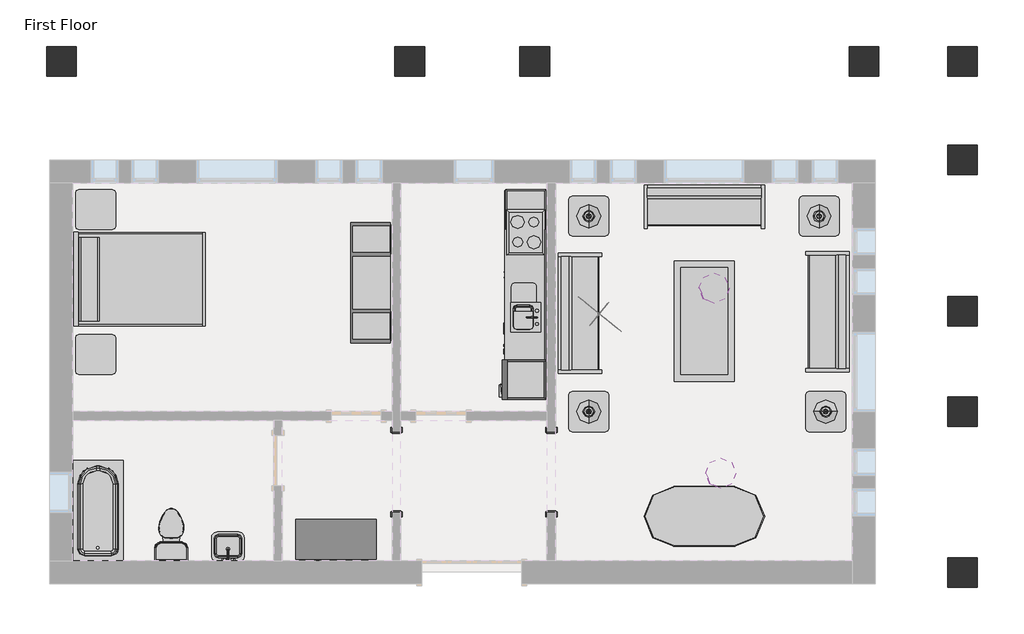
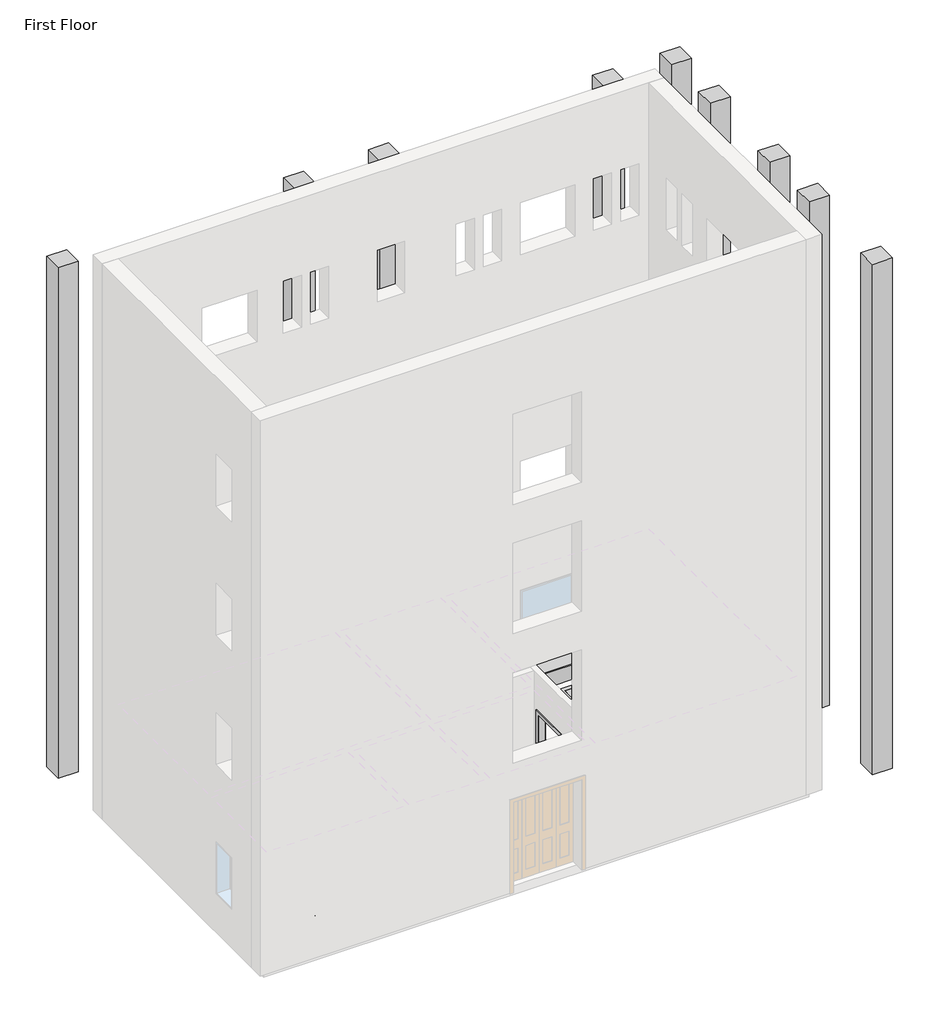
# One storey, part 3 of 3: 15 furniture elements, 9 columns, 7 proxies, 6 light fixtures, 4 flow terminals.
"""IFC4 building model written with IfcOpenShell, lengths in millimetres."""

from ifc_helpers import new_model, si_unit, origin, place, context, project, spatial, faceted_brep, transform, mapped, element, save
from components import m_cook_top_4_unit2_0615_x_500mm_249f3515, m_dishwasher_610_x_610_x_875mm_54ecfc4c, m_kitchenette_medium_2591_ce898a11, m_passage_opening_cased_1220_x_2134mm_87a8d9c2, m_rpc_female_c3b5a3e1, m_refrigerator_600_x_660mm_a466bf94, m_sink_kitchen_island_450_x_450mm_f969cf2d, m_sink_vanity_square_500_x_440mm_1e229b74, m_toilet_domestic_3d_m_toilet_domestic_3d_5cb52bd4, m_toilet_domestic_3d_m_toilet_domestic_3d_183bbd19, m_tub_rectangular_3d_m_tub_rectangular_3d_3a981ad5, m_bed_shaker_1422_x_1981mm_double_096e7f55, m_counter_top_w_sink_hole_600mm_depth_5db41418, m_dresser_1220_x_1525_x_0610mm_18e1f140, m_entertainment_center_1830_x_1830_x_0610mm_f77a9b93, m_sofa_1830mm_58d08fc1, m_table_coffee_0915_x_1830_x_0457mm_134cd960, m_table_dining_oval_0915_x_1830mm_a7cfbe21, m_table_end_cb6ea12e, m_pendant_light_disk_100w_120v_a7a090af, m_table_lamp_standard_60w_120v_6e8cd8b1

model = new_model("IFC4")

# Units and contexts
model_context = context("Model", 3, world=origin())
ifc_project = project(units=[si_unit("LENGTHUNIT", "METRE", prefix="MILLI")], contexts=[model_context])

# Site, building, storey
site = spatial("IfcSite", under=ifc_project)
building = spatial("IfcBuilding", under=site)
storey = spatial("IfcBuildingStorey", under=building, Name="First Floor", Elevation=0.0)

# Proxies
placement = place(None, origin())
m_cook_top_4_unit2_0615_x_500mm_shape = m_cook_top_4_unit2_0615_x_500mm_249f3515(model_context)
element("IfcBuildingElementProxy", 1, Name="M_Cook Top-4 Unit2 : 0615 x 500mm", ObjectType="M_Cook Top-4 Unit2 : 0615 x 500mm", at=placement, inside=storey, context=model_context, shape_type="MappedRepresentation", body=[
    mapped(m_cook_top_4_unit2_0615_x_500mm_shape, transform((-8054.9916203, 1658.804661, 0.0), x_axis=(0.0, -1.0, 0.0), y_axis=(1.0, 0.0, 0.0), z_axis=(0.0, 0.0, 1.0))),
])
m_dishwasher_610_x_610_x_875mm_shape = m_dishwasher_610_x_610_x_875mm_54ecfc4c(model_context)
element("IfcBuildingElementProxy", 2, Name="M_Dishwasher : 610 x 610 x 875mm", ObjectType="M_Dishwasher : 610 x 610 x 875mm", at=placement, inside=storey, context=model_context, shape_type="MappedRepresentation", body=[
    mapped(m_dishwasher_610_x_610_x_875mm_shape, transform((-8321.6411851, 403.0721295, 0.0), x_axis=(0.0, -1.0, 0.0), y_axis=(1.0, 0.0, 0.0), z_axis=(0.0, 0.0, 1.0))),
])
m_kitchenette_medium_2591_shape = m_kitchenette_medium_2591_ce898a11(model_context)
element("IfcBuildingElementProxy", 3, Name="M_Kitchenette - Medium : 2591", ObjectType="M_Kitchenette - Medium : 2591", at=placement, inside=storey, context=model_context, shape_type="MappedRepresentation", body=[
    mapped(m_kitchenette_medium_2591_shape, transform((-7749.9916203, 1029.7923659, 0.0), x_axis=(0.0, -1.0, 0.0), y_axis=(1.0, 0.0, 0.0), z_axis=(0.0, 0.0, 1.0))),
])
m_passage_opening_cased_1220_x_2134mm_shape = m_passage_opening_cased_1220_x_2134mm_87a8d9c2(model_context)
element("IfcBuildingElementProxy", 4, Name="M_Passage Opening-Cased : 1220 x 2134mm", ObjectType="M_Passage Opening-Cased : 1220 x 2134mm", at=placement, inside=storey, context=model_context, shape_type="MappedRepresentation", body=[
    mapped(m_passage_opening_cased_1220_x_2134mm_shape, transform((-7665.3416203, -1982.6925047, 0.0), x_axis=(0.0, 1.0, 0.0), y_axis=(-1.0, 0.0, 0.0), z_axis=(0.0, 0.0, 1.0))),
])
element("IfcBuildingElementProxy", 5, Name="M_Passage Opening-Cased : 1220 x 2134mm", ObjectType="M_Passage Opening-Cased : 1220 x 2134mm", at=placement, inside=storey, context=model_context, shape_type="MappedRepresentation", body=[
    mapped(m_passage_opening_cased_1220_x_2134mm_shape, transform((-10019.0916203, -1999.0698181, 0.0), x_axis=(0.0, -1.0, 0.0), y_axis=(1.0, 0.0, 0.0), z_axis=(0.0, 0.0, 1.0))),
])
m_rpc_female_shape = m_rpc_female_c3b5a3e1(model_context)
element("IfcBuildingElementProxy", 6, Name="M_RPC Female : Cynthia", ObjectType="M_RPC Female : Cynthia", at=placement, inside=storey, context=model_context, shape_type="MappedRepresentation", body=[
    mapped(m_rpc_female_shape, transform((-6817.8815242, 314.0517006, 0.0), x_axis=(-0.6293203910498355, -0.7771459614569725, 0.0), y_axis=(0.7771459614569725, -0.6293203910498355, 0.0), z_axis=(0.0, 0.0, 1.0))),
])
m_refrigerator_600_x_660mm_shape = m_refrigerator_600_x_660mm_a466bf94(model_context)
element("IfcBuildingElementProxy", 7, Name="M_Refrigerator : 600 x 660mm", ObjectType="M_Refrigerator : 600 x 660mm", at=placement, inside=storey, context=model_context, shape_type="MappedRepresentation", body=[
    mapped(m_refrigerator_600_x_660mm_shape, transform((-8046.2067105, -638.2464817, 0.0), x_axis=(0.0, -1.0, 0.0), y_axis=(1.0, 0.0, 0.0), z_axis=(0.0, 0.0, 1.0))),
])

# Columns
element("IfcColumn", 8, ObjectType="M_Concrete-Square-Column : 450 x 450mm", at=placement, inside=storey, context=model_context, shape_type="Brep", body=[
    faceted_brep([(-2693.3416203, 4481.1188386, 0.0), (-2693.3416203, 4031.1188386, 0.0), (-3143.3416203, 4031.1188386, 0.0), (-3143.3416203, 4481.1188386, 0.0), (-2693.3416203, 4481.1188386, 12042.0), (-2693.3416203, 4031.1188386, 12042.0), (-2693.3416203, 4031.1188386, 11742.0), (-2693.3416203, 4031.1188386, 9144.0), (-2693.3416203, 4031.1188386, 8694.0), (-2693.3416203, 4031.1188386, 6096.0), (-2693.3416203, 4031.1188386, 5646.0), (-2693.3416203, 4031.1188386, 3048.0), (-2693.3416203, 4031.1188386, 2598.0), (-2693.3416203, 4481.1188386, 2598.0), (-2693.3416203, 4481.1188386, 3048.0), (-2693.3416203, 4481.1188386, 5646.0), (-2693.3416203, 4481.1188386, 6096.0), (-2693.3416203, 4481.1188386, 8694.0), (-2693.3416203, 4481.1188386, 9144.0), (-2693.3416203, 4481.1188386, 11742.0), (-3143.3416203, 4031.1188386, 12042.0), (-3143.3416203, 4031.1188386, 11742.0), (-3143.3416203, 4031.1188386, 9144.0), (-3143.3416203, 4031.1188386, 8694.0), (-3143.3416203, 4031.1188386, 6096.0), (-3143.3416203, 4031.1188386, 5646.0), (-3143.3416203, 4031.1188386, 3048.0), (-3143.3416203, 4031.1188386, 2598.0), (-3143.3416203, 4481.1188386, 12042.0), (-3143.3416203, 4481.1188386, 11742.0), (-3143.3416203, 4481.1188386, 9144.0), (-3143.3416203, 4481.1188386, 8694.0), (-3143.3416203, 4481.1188386, 6096.0), (-3143.3416203, 4481.1188386, 5646.0), (-3143.3416203, 4481.1188386, 3048.0), (-3143.3416203, 4481.1188386, 2598.0)], [[[0, 1, 2, 3]], [[4, 5, 6, 7, 8, 9, 10, 11, 12, 1, 0, 13, 14, 15, 16, 17, 18, 19]], [[5, 20, 21, 22, 23, 24, 25, 26, 27, 2, 1, 12, 11, 10, 9, 8, 7, 6]], [[20, 28, 29, 30, 31, 32, 33, 34, 35, 3, 2, 27, 26, 25, 24, 23, 22, 21]], [[28, 4, 19, 18, 17, 16, 15, 14, 13, 0, 3, 35, 34, 33, 32, 31, 30, 29]], [[4, 28, 20, 5]]]),
])
element("IfcColumn", 9, ObjectType="M_Concrete-Square-Column : 450 x 450mm", at=placement, inside=storey, context=model_context, shape_type="Brep", body=[
    faceted_brep([(-7693.3416203, 4481.1188386, 0.0), (-7693.3416203, 4031.1188386, 0.0), (-8143.3416203, 4031.1188386, 0.0), (-8143.3416203, 4481.1188386, 0.0), (-7693.3416203, 4481.1188386, 12042.0), (-7693.3416203, 4031.1188386, 12042.0), (-7693.3416203, 4031.1188386, 11742.0), (-7693.3416203, 4031.1188386, 9144.0), (-7693.3416203, 4031.1188386, 8694.0), (-7693.3416203, 4031.1188386, 6096.0), (-7693.3416203, 4031.1188386, 5646.0), (-7693.3416203, 4031.1188386, 3048.0), (-7693.3416203, 4031.1188386, 2598.0), (-7693.3416203, 4481.1188386, 2598.0), (-7693.3416203, 4481.1188386, 3048.0), (-7693.3416203, 4481.1188386, 5646.0), (-7693.3416203, 4481.1188386, 6096.0), (-7693.3416203, 4481.1188386, 8694.0), (-7693.3416203, 4481.1188386, 9144.0), (-7693.3416203, 4481.1188386, 11742.0), (-8143.3416203, 4031.1188386, 12042.0), (-8143.3416203, 4031.1188386, 11742.0), (-8143.3416203, 4031.1188386, 9144.0), (-8143.3416203, 4031.1188386, 8694.0), (-8143.3416203, 4031.1188386, 6096.0), (-8143.3416203, 4031.1188386, 5646.0), (-8143.3416203, 4031.1188386, 3048.0), (-8143.3416203, 4031.1188386, 2598.0), (-8143.3416203, 4481.1188386, 12042.0), (-8143.3416203, 4481.1188386, 11742.0), (-8143.3416203, 4481.1188386, 9144.0), (-8143.3416203, 4481.1188386, 8694.0), (-8143.3416203, 4481.1188386, 6096.0), (-8143.3416203, 4481.1188386, 5646.0), (-8143.3416203, 4481.1188386, 3048.0), (-8143.3416203, 4481.1188386, 2598.0)], [[[0, 1, 2, 3]], [[4, 5, 6, 7, 8, 9, 10, 11, 12, 1, 0, 13, 14, 15, 16, 17, 18, 19]], [[5, 20, 21, 22, 23, 24, 25, 26, 27, 2, 1, 12, 11, 10, 9, 8, 7, 6]], [[20, 28, 29, 30, 31, 32, 33, 34, 35, 3, 2, 27, 26, 25, 24, 23, 22, 21]], [[28, 4, 19, 18, 17, 16, 15, 14, 13, 0, 3, 35, 34, 33, 32, 31, 30, 29]], [[4, 28, 20, 5]]]),
])
element("IfcColumn", 10, ObjectType="M_Concrete-Square-Column : 450 x 450mm", at=placement, inside=storey, context=model_context, shape_type="Brep", body=[
    faceted_brep([(-9593.3416203, 4481.1188386, 0.0), (-9593.3416203, 4031.1188386, 0.0), (-10043.3416203, 4031.1188386, 0.0), (-10043.3416203, 4481.1188386, 0.0), (-9593.3416203, 4481.1188386, 12042.0), (-9593.3416203, 4031.1188386, 12042.0), (-9593.3416203, 4031.1188386, 11742.0), (-9593.3416203, 4031.1188386, 9144.0), (-9593.3416203, 4031.1188386, 8694.0), (-9593.3416203, 4031.1188386, 6096.0), (-9593.3416203, 4031.1188386, 5646.0), (-9593.3416203, 4031.1188386, 3048.0), (-9593.3416203, 4031.1188386, 2598.0), (-9593.3416203, 4481.1188386, 2598.0), (-9593.3416203, 4481.1188386, 3048.0), (-9593.3416203, 4481.1188386, 5646.0), (-9593.3416203, 4481.1188386, 6096.0), (-9593.3416203, 4481.1188386, 8694.0), (-9593.3416203, 4481.1188386, 9144.0), (-9593.3416203, 4481.1188386, 11742.0), (-10043.3416203, 4031.1188386, 12042.0), (-10043.3416203, 4031.1188386, 11742.0), (-10043.3416203, 4031.1188386, 9144.0), (-10043.3416203, 4031.1188386, 8694.0), (-10043.3416203, 4031.1188386, 6096.0), (-10043.3416203, 4031.1188386, 5646.0), (-10043.3416203, 4031.1188386, 3048.0), (-10043.3416203, 4031.1188386, 2598.0), (-10043.3416203, 4481.1188386, 12042.0), (-10043.3416203, 4481.1188386, 11742.0), (-10043.3416203, 4481.1188386, 9144.0), (-10043.3416203, 4481.1188386, 8694.0), (-10043.3416203, 4481.1188386, 6096.0), (-10043.3416203, 4481.1188386, 5646.0), (-10043.3416203, 4481.1188386, 3048.0), (-10043.3416203, 4481.1188386, 2598.0)], [[[0, 1, 2, 3]], [[4, 5, 6, 7, 8, 9, 10, 11, 12, 1, 0, 13, 14, 15, 16, 17, 18, 19]], [[5, 20, 21, 22, 23, 24, 25, 26, 27, 2, 1, 12, 11, 10, 9, 8, 7, 6]], [[20, 28, 29, 30, 31, 32, 33, 34, 35, 3, 2, 27, 26, 25, 24, 23, 22, 21]], [[28, 4, 19, 18, 17, 16, 15, 14, 13, 0, 3, 35, 34, 33, 32, 31, 30, 29]], [[4, 28, 20, 5]]]),
])
element("IfcColumn", 11, ObjectType="M_Concrete-Square-Column : 450 x 450mm", at=placement, inside=storey, context=model_context, shape_type="Brep", body=[
    faceted_brep([(-14885.3416203, 4481.1188386, 0.0), (-14885.3416203, 4031.1188386, 0.0), (-15335.3416203, 4031.1188386, 0.0), (-15335.3416203, 4481.1188386, 0.0), (-14885.3416203, 4481.1188386, 12042.0), (-14885.3416203, 4031.1188386, 12042.0), (-14885.3416203, 4031.1188386, 11742.0), (-14885.3416203, 4481.1188386, 11742.0), (-15335.3416203, 4031.1188386, 12042.0), (-15335.3416203, 4031.1188386, 11742.0), (-15335.3416203, 4481.1188386, 12042.0), (-15335.3416203, 4481.1188386, 11742.0)], [[[0, 1, 2, 3]], [[4, 5, 6, 1, 0, 7]], [[5, 8, 9, 2, 1, 6]], [[8, 10, 11, 3, 2, 9]], [[10, 4, 7, 0, 3, 11]], [[4, 10, 8, 5]]]),
])
element("IfcColumn", 12, ObjectType="M_Concrete-Square-Column : 450 x 450mm", at=placement, inside=storey, context=model_context, shape_type="Brep", body=[
    faceted_brep([(-1193.3416203, 4481.1188386, 0.0), (-1193.3416203, 4031.1188386, 0.0), (-1643.3416203, 4031.1188386, 0.0), (-1643.3416203, 4481.1188386, 0.0), (-1193.3416203, 4481.1188386, 12042.0), (-1193.3416203, 4031.1188386, 12042.0), (-1193.3416203, 4031.1188386, 11742.0), (-1643.3416203, 4031.1188386, 12042.0), (-1643.3416203, 4031.1188386, 11742.0), (-1643.3416203, 4481.1188386, 12042.0), (-1643.3416203, 4481.1188386, 11742.0)], [[[0, 1, 2, 3]], [[4, 5, 6, 1, 0]], [[5, 7, 8, 2, 1, 6]], [[7, 9, 10, 3, 2, 8]], [[9, 4, 0, 3, 10]], [[4, 9, 7, 5]]]),
])
element("IfcColumn", 13, ObjectType="M_Concrete-Square-Column : 450 x 450mm", at=placement, inside=storey, context=model_context, shape_type="Brep", body=[
    faceted_brep([(-1193.3416203, 2981.1188386, 0.0), (-1193.3416203, 2531.1188386, 0.0), (-1643.3416203, 2531.1188386, 0.0), (-1643.3416203, 2981.1188386, 0.0), (-1193.3416203, 2981.1188386, 12042.0), (-1193.3416203, 2531.1188386, 12042.0), (-1193.3416203, 2531.1188386, 11742.0), (-1193.3416203, 2531.1188386, 9144.0), (-1193.3416203, 2531.1188386, 8694.0), (-1193.3416203, 2531.1188386, 6096.0), (-1193.3416203, 2531.1188386, 5646.0), (-1193.3416203, 2531.1188386, 3048.0), (-1193.3416203, 2531.1188386, 2598.0), (-1193.3416203, 2981.1188386, 2598.0), (-1193.3416203, 2981.1188386, 3048.0), (-1193.3416203, 2981.1188386, 5646.0), (-1193.3416203, 2981.1188386, 6096.0), (-1193.3416203, 2981.1188386, 8694.0), (-1193.3416203, 2981.1188386, 9144.0), (-1193.3416203, 2981.1188386, 11742.0), (-1643.3416203, 2531.1188386, 12042.0), (-1643.3416203, 2531.1188386, 11742.0), (-1643.3416203, 2531.1188386, 9144.0), (-1643.3416203, 2531.1188386, 8694.0), (-1643.3416203, 2531.1188386, 6096.0), (-1643.3416203, 2531.1188386, 5646.0), (-1643.3416203, 2531.1188386, 3048.0), (-1643.3416203, 2531.1188386, 2598.0), (-1643.3416203, 2981.1188386, 12042.0), (-1643.3416203, 2981.1188386, 11742.0), (-1643.3416203, 2981.1188386, 9144.0), (-1643.3416203, 2981.1188386, 8694.0), (-1643.3416203, 2981.1188386, 6096.0), (-1643.3416203, 2981.1188386, 5646.0), (-1643.3416203, 2981.1188386, 3048.0), (-1643.3416203, 2981.1188386, 2598.0)], [[[0, 1, 2, 3]], [[4, 5, 6, 7, 8, 9, 10, 11, 12, 1, 0, 13, 14, 15, 16, 17, 18, 19]], [[5, 20, 21, 22, 23, 24, 25, 26, 27, 2, 1, 12, 11, 10, 9, 8, 7, 6]], [[20, 28, 29, 30, 31, 32, 33, 34, 35, 3, 2, 27, 26, 25, 24, 23, 22, 21]], [[28, 4, 19, 18, 17, 16, 15, 14, 13, 0, 3, 35, 34, 33, 32, 31, 30, 29]], [[4, 28, 20, 5]]]),
])
element("IfcColumn", 14, ObjectType="M_Concrete-Square-Column : 450 x 450mm", at=placement, inside=storey, context=model_context, shape_type="Brep", body=[
    faceted_brep([(-1193.3416203, 681.1188386, 0.0), (-1193.3416203, 231.1188386, 0.0), (-1643.3416203, 231.1188386, 0.0), (-1643.3416203, 681.1188386, 0.0), (-1193.3416203, 681.1188386, 12042.0), (-1193.3416203, 231.1188386, 12042.0), (-1193.3416203, 231.1188386, 11742.0), (-1193.3416203, 231.1188386, 9144.0), (-1193.3416203, 231.1188386, 8694.0), (-1193.3416203, 231.1188386, 6096.0), (-1193.3416203, 231.1188386, 5646.0), (-1193.3416203, 231.1188386, 3048.0), (-1193.3416203, 231.1188386, 2598.0), (-1193.3416203, 681.1188386, 2598.0), (-1193.3416203, 681.1188386, 3048.0), (-1193.3416203, 681.1188386, 5646.0), (-1193.3416203, 681.1188386, 6096.0), (-1193.3416203, 681.1188386, 8694.0), (-1193.3416203, 681.1188386, 9144.0), (-1193.3416203, 681.1188386, 11742.0), (-1643.3416203, 231.1188386, 12042.0), (-1643.3416203, 231.1188386, 11742.0), (-1643.3416203, 231.1188386, 9144.0), (-1643.3416203, 231.1188386, 8694.0), (-1643.3416203, 231.1188386, 6096.0), (-1643.3416203, 231.1188386, 5646.0), (-1643.3416203, 231.1188386, 3048.0), (-1643.3416203, 231.1188386, 2598.0), (-1643.3416203, 681.1188386, 12042.0), (-1643.3416203, 681.1188386, 11742.0), (-1643.3416203, 681.1188386, 9144.0), (-1643.3416203, 681.1188386, 8694.0), (-1643.3416203, 681.1188386, 6096.0), (-1643.3416203, 681.1188386, 5646.0), (-1643.3416203, 681.1188386, 3048.0), (-1643.3416203, 681.1188386, 2598.0)], [[[0, 1, 2, 3]], [[4, 5, 6, 7, 8, 9, 10, 11, 12, 1, 0, 13, 14, 15, 16, 17, 18, 19]], [[5, 20, 21, 22, 23, 24, 25, 26, 27, 2, 1, 12, 11, 10, 9, 8, 7, 6]], [[20, 28, 29, 30, 31, 32, 33, 34, 35, 3, 2, 27, 26, 25, 24, 23, 22, 21]], [[28, 4, 19, 18, 17, 16, 15, 14, 13, 0, 3, 35, 34, 33, 32, 31, 30, 29]], [[4, 28, 20, 5]]]),
])
element("IfcColumn", 15, ObjectType="M_Concrete-Square-Column : 450 x 450mm", at=placement, inside=storey, context=model_context, shape_type="Brep", body=[
    faceted_brep([(-1193.3416203, -845.3811614, 0.0), (-1193.3416203, -1295.3811614, 0.0), (-1643.3416203, -1295.3811614, 0.0), (-1643.3416203, -845.3811614, 0.0), (-1193.3416203, -845.3811614, 12042.0), (-1193.3416203, -1295.3811614, 12042.0), (-1193.3416203, -1295.3811614, 11742.0), (-1193.3416203, -1295.3811614, 9144.0), (-1193.3416203, -1295.3811614, 8694.0), (-1193.3416203, -1295.3811614, 6096.0), (-1193.3416203, -1295.3811614, 5646.0), (-1193.3416203, -1295.3811614, 3048.0), (-1193.3416203, -1295.3811614, 2598.0), (-1193.3416203, -845.3811614, 2598.0), (-1193.3416203, -845.3811614, 3048.0), (-1193.3416203, -845.3811614, 5646.0), (-1193.3416203, -845.3811614, 6096.0), (-1193.3416203, -845.3811614, 8694.0), (-1193.3416203, -845.3811614, 9144.0), (-1193.3416203, -845.3811614, 11742.0), (-1643.3416203, -1295.3811614, 12042.0), (-1643.3416203, -1295.3811614, 11742.0), (-1643.3416203, -1295.3811614, 9144.0), (-1643.3416203, -1295.3811614, 8694.0), (-1643.3416203, -1295.3811614, 6096.0), (-1643.3416203, -1295.3811614, 5646.0), (-1643.3416203, -1295.3811614, 3048.0), (-1643.3416203, -1295.3811614, 2598.0), (-1643.3416203, -845.3811614, 12042.0), (-1643.3416203, -845.3811614, 11742.0), (-1643.3416203, -845.3811614, 9144.0), (-1643.3416203, -845.3811614, 8694.0), (-1643.3416203, -845.3811614, 6096.0), (-1643.3416203, -845.3811614, 5646.0), (-1643.3416203, -845.3811614, 3048.0), (-1643.3416203, -845.3811614, 2598.0)], [[[0, 1, 2, 3]], [[4, 5, 6, 7, 8, 9, 10, 11, 12, 1, 0, 13, 14, 15, 16, 17, 18, 19]], [[5, 20, 21, 22, 23, 24, 25, 26, 27, 2, 1, 12, 11, 10, 9, 8, 7, 6]], [[20, 28, 29, 30, 31, 32, 33, 34, 35, 3, 2, 27, 26, 25, 24, 23, 22, 21]], [[28, 4, 19, 18, 17, 16, 15, 14, 13, 0, 3, 35, 34, 33, 32, 31, 30, 29]], [[4, 28, 20, 5]]]),
])
element("IfcColumn", 16, ObjectType="M_Concrete-Square-Column : 450 x 450mm", at=placement, inside=storey, context=model_context, shape_type="Brep", body=[
    faceted_brep([(-1193.3416203, -3289.8811614, 0.0), (-1193.3416203, -3739.8811614, 0.0), (-1643.3416203, -3739.8811614, 0.0), (-1643.3416203, -3289.8811614, 0.0), (-1193.3416203, -3289.8811614, 12042.0), (-1193.3416203, -3739.8811614, 12042.0), (-1193.3416203, -3739.8811614, 11742.0), (-1193.3416203, -3289.8811614, 11742.0), (-1643.3416203, -3739.8811614, 12042.0), (-1643.3416203, -3739.8811614, 11742.0), (-1643.3416203, -3289.8811614, 12042.0), (-1643.3416203, -3289.8811614, 11742.0)], [[[0, 1, 2, 3]], [[4, 5, 6, 1, 0, 7]], [[5, 8, 9, 2, 1, 6]], [[8, 10, 11, 3, 2, 9]], [[10, 4, 7, 0, 3, 11]], [[4, 10, 8, 5]]]),
])

# Flow terminals
m_sink_kitchen_island_450_x_450mm_shape = m_sink_kitchen_island_450_x_450mm_f969cf2d(model_context)
element("IfcFlowTerminal", 17, ObjectType="M_Sink Kitchen-Island : 450 x 450mm", at=placement, inside=storey, context=model_context, shape_type="MappedRepresentation", body=[
    mapped(m_sink_kitchen_island_450_x_450mm_shape, transform((-8057.3370214, 378.9939015, 0.0), x_axis=(0.0, -1.0, 0.0), y_axis=(1.0, 0.0, 0.0), z_axis=(0.0, 0.0, 1.0))),
])
m_sink_vanity_square_500_x_440mm_shape = m_sink_vanity_square_500_x_440mm_1e229b74(model_context)
element("IfcFlowTerminal", 18, ObjectType="M_Sink Vanity-Square : 500 x 440mm", at=placement, inside=storey, context=model_context, shape_type="MappedRepresentation", body=[
    mapped(m_sink_vanity_square_500_x_440mm_shape, transform((-12563.5523798, -3158.1107603, 0.0), x_axis=(-1.0, 0.0, 0.0), y_axis=(0.0, -1.0, 0.0), z_axis=(0.0, 0.0, 1.0))),
])
m_toilet_domestic_3d_m_toilet_domestic_3d_shape = m_toilet_domestic_3d_m_toilet_domestic_3d_5cb52bd4(model_context)
m_toilet_domestic_3d_m_toilet_domestic_3d_2_shape = m_toilet_domestic_3d_m_toilet_domestic_3d_183bbd19(model_context)
element("IfcFlowTerminal", 19, ObjectType="M_Toilet-Domestic-3D : M_Toilet-Domestic-3D", at=placement, inside=storey, context=model_context, shape_type="MappedRepresentation", body=[
    mapped(m_toilet_domestic_3d_m_toilet_domestic_3d_shape, transform((-13440.7376477, -2845.185134, 0.0), x_axis=(-1.0000000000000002, 0.0, 0.0), y_axis=(0.0, -1.0000000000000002, 0.0), z_axis=(0.0, 0.0, 1.0))),
    mapped(m_toilet_domestic_3d_m_toilet_domestic_3d_2_shape, transform((-13440.7376477, -2845.185134, 0.0), x_axis=(-1.0000000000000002, 0.0, 0.0), y_axis=(0.0, -1.0000000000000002, 0.0), z_axis=(0.0, 0.0, 1.0))),
])
m_tub_rectangular_3d_m_tub_rectangular_3d_shape = m_tub_rectangular_3d_m_tub_rectangular_3d_3a981ad5(model_context)
element("IfcFlowTerminal", 20, ObjectType="M_Tub-Rectangular-3D : M_Tub-Rectangular-3D", at=placement, inside=storey, context=model_context, shape_type="MappedRepresentation", body=[
    mapped(m_tub_rectangular_3d_m_tub_rectangular_3d_shape, transform((-15110.3416203, -2229.2781927, 0.0), x_axis=(0.0, 1.0, 0.0), y_axis=(-1.0, 0.0, 0.0), z_axis=(0.0, 0.0, 1.0))),
])

# Furniture
m_bed_shaker_1422_x_1981mm_double_shape = m_bed_shaker_1422_x_1981mm_double_096e7f55(model_context)
element("IfcFurniture", 21, ObjectType="M_Bed-Shaker : 1422 x 1981mm - Double", at=placement, inside=storey, context=model_context, shape_type="MappedRepresentation", body=[
    mapped(m_bed_shaker_1422_x_1981mm_double_shape, transform((-14905.3416203, 963.9688386, 0.0), x_axis=(0.0, 1.0000000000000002, 0.0), y_axis=(-1.0000000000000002, 0.0, 0.0), z_axis=(0.0, 0.0, 1.0))),
])
m_counter_top_w_sink_hole_600mm_depth_shape = m_counter_top_w_sink_hole_600mm_depth_5db41418(model_context)
element("IfcFurniture", 22, ObjectType="M_Counter Top w Sink Hole : 600mm Depth", at=placement, inside=storey, context=model_context, shape_type="MappedRepresentation", body=[
    mapped(m_counter_top_w_sink_hole_600mm_depth_shape, transform((-7749.9916203, 496.5923659, 0.0), x_axis=(0.0, -1.0, 0.0), y_axis=(1.0, 0.0, 0.0), z_axis=(0.0, 0.0, 1.0))),
])
m_dresser_1220_x_1525_x_0610mm_shape = m_dresser_1220_x_1525_x_0610mm_18e1f140(model_context)
element("IfcFurniture", 23, ObjectType="M_Dresser : 1220 x 1525 x 0610mm", at=placement, inside=storey, context=model_context, shape_type="MappedRepresentation", body=[
    mapped(m_dresser_1220_x_1525_x_0610mm_shape, transform((-10667.6483605, -2647.7182073, 0.0), x_axis=(1.0, 0.0, 0.0), y_axis=(0.0, 1.0, 0.0), z_axis=(0.0, 0.0, 1.0))),
])
m_entertainment_center_1830_x_1830_x_0610mm_shape = m_entertainment_center_1830_x_1830_x_0610mm_f77a9b93(model_context)
element("IfcFurniture", 24, ObjectType="M_Entertainment center : 1830 x 1830 x 0610mm", at=placement, inside=storey, context=model_context, shape_type="MappedRepresentation", body=[
    mapped(m_entertainment_center_1830_x_1830_x_0610mm_shape, transform((-10818.2416203, 891.1188386, 0.0), x_axis=(0.0, 1.0, 0.0), y_axis=(-1.0, 0.0, 0.0), z_axis=(0.0, 0.0, 1.0))),
])
m_sofa_1830mm_shape = m_sofa_1830mm_58d08fc1(model_context)
element("IfcFurniture", 25, ObjectType="M_Sofa : 1830mm", at=placement, inside=storey, context=model_context, shape_type="MappedRepresentation", body=[
    mapped(m_sofa_1830mm_shape, transform((-5413.7121121, 1899.9647403, 0.0), x_axis=(1.0, 0.0, 0.0), y_axis=(0.0, 1.0, 0.0), z_axis=(0.0, 0.0, 1.0))),
])
element("IfcFurniture", 26, ObjectType="M_Sofa : 1830mm", at=placement, inside=storey, context=model_context, shape_type="MappedRepresentation", body=[
    mapped(m_sofa_1830mm_shape, transform((-3617.1736471, 517.2688343, 0.0), x_axis=(0.0, -1.0, 0.0), y_axis=(1.0, 0.0, 0.0), z_axis=(0.0, 0.0, 1.0))),
])
element("IfcFurniture", 27, ObjectType="M_Sofa : 1830mm", at=placement, inside=storey, context=model_context, shape_type="MappedRepresentation", body=[
    mapped(m_sofa_1830mm_shape, transform((-7088.437522, 355.7483468, 0.0), x_axis=(0.0, 1.0, 0.0), y_axis=(-1.0, 0.0, 0.0), z_axis=(0.0, 0.0, 1.0))),
])
m_table_coffee_0915_x_1830_x_0457mm_shape = m_table_coffee_0915_x_1830_x_0457mm_134cd960(model_context)
element("IfcFurniture", 28, ObjectType="M_Table-Coffee : 0915 x 1830 x 0457mm", at=placement, inside=storey, context=model_context, shape_type="MappedRepresentation", body=[
    mapped(m_table_coffee_0915_x_1830_x_0457mm_shape, transform((-5248.1305425, 287.8530719, 0.0), x_axis=(0.0, 1.0, 0.0), y_axis=(-1.0, 0.0, 0.0), z_axis=(0.0, 0.0, 1.0))),
])
m_table_dining_oval_0915_x_1830mm_shape = m_table_dining_oval_0915_x_1830mm_a7cfbe21(model_context)
element("IfcFurniture", 29, ObjectType="M_Table-Dining Oval : 0915 x 1830mm", at=placement, inside=storey, context=model_context, shape_type="MappedRepresentation", body=[
    mapped(m_table_dining_oval_0915_x_1830mm_shape, transform((-4941.5219482, -2305.2828007, 0.0), x_axis=(1.0, 0.0, 0.0), y_axis=(0.0, 1.0, 0.0), z_axis=(0.0, 0.0, 1.0))),
])
m_table_end_shape = m_table_end_cb6ea12e(model_context)
element("IfcFurniture", 30, ObjectType="M_Table-End : 0610 x 0160mm altered height", at=placement, inside=storey, context=model_context, shape_type="MappedRepresentation", body=[
    mapped(m_table_end_shape, transform((-7407.0752506, 1748.7188386, 0.0), x_axis=(1.0, 0.0, 0.0), y_axis=(0.0, 1.0, 0.0), z_axis=(0.0, 0.0, 1.0))),
])
element("IfcFurniture", 31, ObjectType="M_Table-End : 0610 x 0160mm altered height", at=placement, inside=storey, context=model_context, shape_type="MappedRepresentation", body=[
    mapped(m_table_end_shape, transform((-3907.0752506, 1748.7188386, 0.0), x_axis=(1.0, 0.0, 0.0), y_axis=(0.0, 1.0, 0.0), z_axis=(0.0, 0.0, 1.0))),
])
element("IfcFurniture", 32, ObjectType="M_Table-End : 0610 x 0160mm altered height", at=placement, inside=storey, context=model_context, shape_type="MappedRepresentation", body=[
    mapped(m_table_end_shape, transform((-3807.0752506, -1222.7811614, 0.0), x_axis=(1.0, 0.0, 0.0), y_axis=(0.0, 1.0, 0.0), z_axis=(0.0, 0.0, 1.0))),
])
element("IfcFurniture", 33, ObjectType="M_Table-End : 0610 x 0160mm altered height", at=placement, inside=storey, context=model_context, shape_type="MappedRepresentation", body=[
    mapped(m_table_end_shape, transform((-7407.0752506, -1222.7811614, 0.0), x_axis=(1.0, 0.0, 0.0), y_axis=(0.0, 1.0, 0.0), z_axis=(0.0, 0.0, 1.0))),
])
element("IfcFurniture", 34, ObjectType="M_Table-End : 0610 x 0160mm altered height", at=placement, inside=storey, context=model_context, shape_type="MappedRepresentation", body=[
    mapped(m_table_end_shape, transform((-14899.0752506, -351.2811614, 0.0), x_axis=(1.0, 0.0, 0.0), y_axis=(0.0, 1.0, 0.0), z_axis=(0.0, 0.0, 1.0))),
])
element("IfcFurniture", 35, ObjectType="M_Table-End : 0610 x 0160mm altered height", at=placement, inside=storey, context=model_context, shape_type="MappedRepresentation", body=[
    mapped(m_table_end_shape, transform((-14899.0752506, 1848.7188386, 0.0), x_axis=(1.0, 0.0, 0.0), y_axis=(0.0, 1.0, 0.0), z_axis=(0.0, 0.0, 1.0))),
])

# Light fixtures
m_pendant_light_disk_100w_120v_shape = m_pendant_light_disk_100w_120v_a7a090af(model_context)
element("IfcLightFixture", 36, ObjectType="M_Pendant Light - Disk : 100W - 120V", at=placement, inside=storey, context=model_context, shape_type="MappedRepresentation", body=[
    mapped(m_pendant_light_disk_100w_120v_shape, transform((-5193.3416203, 806.1188386, 151.5999938), x_axis=(1.0, 0.0, 0.0), y_axis=(0.0, 1.0, 0.0), z_axis=(0.0, 0.0, 1.0))),
])
element("IfcLightFixture", 37, ObjectType="M_Pendant Light - Disk : 100W - 120V", at=placement, inside=storey, context=model_context, shape_type="MappedRepresentation", body=[
    mapped(m_pendant_light_disk_100w_120v_shape, transform((-5093.3416203, -2005.8811614, 151.5999938), x_axis=(1.0, 0.0, 0.0), y_axis=(0.0, 1.0, 0.0), z_axis=(0.0, 0.0, 1.0))),
])
m_table_lamp_standard_60w_120v_shape = m_table_lamp_standard_60w_120v_6e8cd8b1(model_context)
element("IfcLightFixture", 38, ObjectType="M_Table Lamp - Standard : 60W - 120V", at=placement, inside=storey, context=model_context, shape_type="MappedRepresentation", body=[
    mapped(m_table_lamp_standard_60w_120v_shape, transform((-3498.3416203, -1070.3811614, 381.0), x_axis=(1.0, 0.0, 0.0), y_axis=(0.0, 1.0, 0.0), z_axis=(0.0, 0.0, 1.0))),
])
element("IfcLightFixture", 39, ObjectType="M_Table Lamp - Standard : 60W - 120V", at=placement, inside=storey, context=model_context, shape_type="MappedRepresentation", body=[
    mapped(m_table_lamp_standard_60w_120v_shape, transform((-3598.3416203, 1901.1188386, 381.0), x_axis=(0.0, 1.0000000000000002, 0.0), y_axis=(-1.0000000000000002, 0.0, 0.0), z_axis=(0.0, 0.0, 1.0))),
])
element("IfcLightFixture", 40, ObjectType="M_Table Lamp - Standard : 60W - 120V", at=placement, inside=storey, context=model_context, shape_type="MappedRepresentation", body=[
    mapped(m_table_lamp_standard_60w_120v_shape, transform((-7098.3416203, 1901.1188386, 381.0), x_axis=(0.0, 1.0000000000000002, 0.0), y_axis=(-1.0000000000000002, 0.0, 0.0), z_axis=(0.0, 0.0, 1.0))),
])
element("IfcLightFixture", 41, ObjectType="M_Table Lamp - Standard : 60W - 120V", at=placement, inside=storey, context=model_context, shape_type="MappedRepresentation", body=[
    mapped(m_table_lamp_standard_60w_120v_shape, transform((-7098.3416203, -1070.3811614, 381.0), x_axis=(0.0, 1.0000000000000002, 0.0), y_axis=(-1.0000000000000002, 0.0, 0.0), z_axis=(0.0, 0.0, 1.0))),
])

save(model, "model.ifc")
